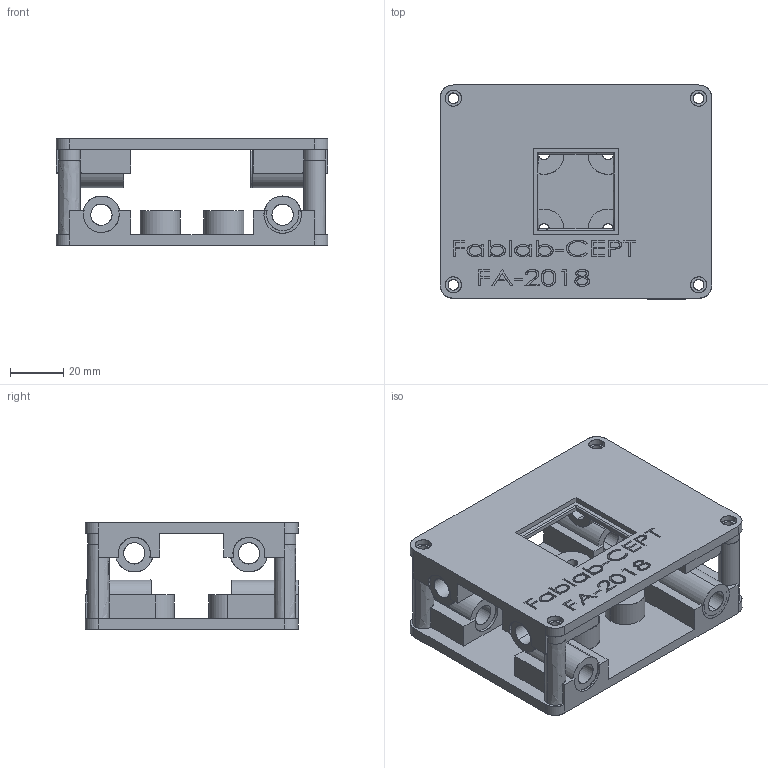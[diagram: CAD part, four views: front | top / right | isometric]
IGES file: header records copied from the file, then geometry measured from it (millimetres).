
Start section: SolidWorks IGES file using analytic representation for surfaces
Global section: file name: E:\fabacadmey\weekly work\week 15\New folder\Assem2.IGS; native system: SolidWorks 2014; preprocessor: SolidWorks 2014; author: Gaurav W; date: 180515.113657; units: millimetre
Bounding box: 102 x 80.27 x 40 mm (x, y, z)
Surface area: 65814.8 mm2 (no closed solid volume)
Topology: 0 solids, 0 shells, 529 faces, 8319 edges, 8319 vertices
Faces by surface type: bspline 364, revolution 165
